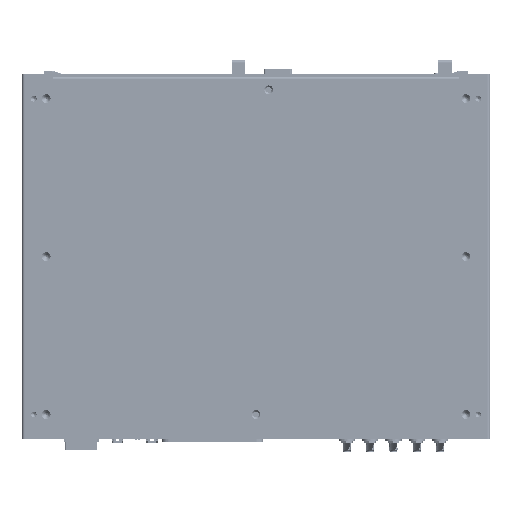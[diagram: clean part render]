
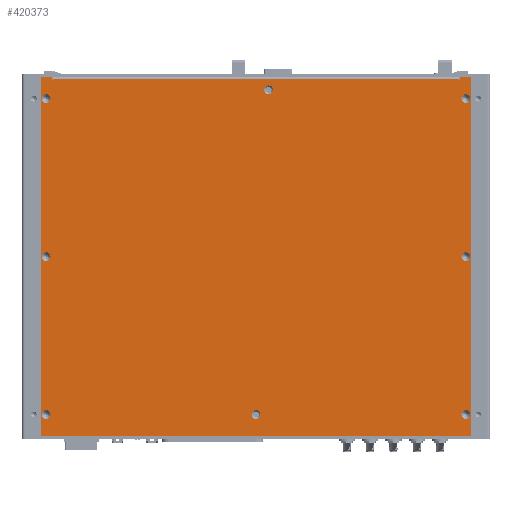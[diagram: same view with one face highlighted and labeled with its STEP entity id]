
A CAD part, front view. The second image highlights one B-rep face of the part: STEP entity #420373.
In plain terms, the highlighted planar face has unit normal (0, -1, 0).
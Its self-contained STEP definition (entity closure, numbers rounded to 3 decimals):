
#3962=PLANE('',#444444);
#17279=FACE_BOUND('',#45113,.T.);
#17280=FACE_BOUND('',#45114,.T.);
#17281=FACE_BOUND('',#45115,.T.);
#17282=FACE_BOUND('',#45116,.T.);
#17283=FACE_BOUND('',#45117,.T.);
#17284=FACE_BOUND('',#45118,.T.);
#17285=FACE_BOUND('',#45119,.T.);
#17286=FACE_BOUND('',#45120,.T.);
#22444=FACE_OUTER_BOUND('',#45112,.T.);
#45112=EDGE_LOOP('',(#284339,#284340,#284341,#284342,#284343,#284344,#284345,
#284346,#284347,#284348,#284349,#284350));
#45113=EDGE_LOOP('',(#284351));
#45114=EDGE_LOOP('',(#284352));
#45115=EDGE_LOOP('',(#284353));
#45116=EDGE_LOOP('',(#284354));
#45117=EDGE_LOOP('',(#284355));
#45118=EDGE_LOOP('',(#284356));
#45119=EDGE_LOOP('',(#284357));
#45120=EDGE_LOOP('',(#284358));
#71021=CIRCLE('',#444431,0.25);
#71023=CIRCLE('',#444435,0.25);
#71027=CIRCLE('',#444445,3.);
#71028=CIRCLE('',#444446,3.);
#71029=CIRCLE('',#444447,3.);
#71030=CIRCLE('',#444448,3.);
#71031=CIRCLE('',#444449,3.);
#71032=CIRCLE('',#444450,3.);
#71033=CIRCLE('',#444451,3.);
#71034=CIRCLE('',#444452,3.);
#86677=LINE('',#605684,#131161);
#86680=LINE('',#605694,#131164);
#86684=LINE('',#605701,#131168);
#86689=LINE('',#605709,#131173);
#86690=LINE('',#605712,#131174);
#86694=LINE('',#605722,#131178);
#86697=LINE('',#605732,#131181);
#86698=LINE('',#605734,#131182);
#86699=LINE('',#605736,#131183);
#86700=LINE('',#605738,#131184);
#131161=VECTOR('',#488475,1000.);
#131164=VECTOR('',#488488,1000.);
#131168=VECTOR('',#488494,1000.);
#131173=VECTOR('',#488501,1000.);
#131174=VECTOR('',#488504,1000.);
#131178=VECTOR('',#488516,1000.);
#131181=VECTOR('',#488527,1000.);
#131182=VECTOR('',#488530,1000.);
#131183=VECTOR('',#488533,1000.);
#131184=VECTOR('',#488536,1000.);
#175504=VERTEX_POINT('',#605682);
#175505=VERTEX_POINT('',#605683);
#175506=VERTEX_POINT('',#605692);
#175507=VERTEX_POINT('',#605693);
#175508=VERTEX_POINT('',#605699);
#175509=VERTEX_POINT('',#605700);
#175510=VERTEX_POINT('',#605705);
#175511=VERTEX_POINT('',#605707);
#175512=VERTEX_POINT('',#605711);
#175513=VERTEX_POINT('',#605715);
#175515=VERTEX_POINT('',#605724);
#175516=VERTEX_POINT('',#605725);
#175520=VERTEX_POINT('',#605746);
#175521=VERTEX_POINT('',#605748);
#175522=VERTEX_POINT('',#605750);
#175523=VERTEX_POINT('',#605752);
#175524=VERTEX_POINT('',#605754);
#175525=VERTEX_POINT('',#605756);
#175526=VERTEX_POINT('',#605758);
#175527=VERTEX_POINT('',#605760);
#217073=EDGE_CURVE('',#175504,#175505,#86677,.T.);
#217078=EDGE_CURVE('',#175506,#175507,#86680,.T.);
#217082=EDGE_CURVE('',#175508,#175509,#86684,.T.);
#217087=EDGE_CURVE('',#175511,#175510,#86689,.T.);
#217088=EDGE_CURVE('',#175512,#175510,#86690,.T.);
#217090=EDGE_CURVE('',#175513,#175512,#71021,.T.);
#217094=EDGE_CURVE('',#175505,#175513,#86694,.T.);
#217095=EDGE_CURVE('',#175515,#175516,#71023,.T.);
#217099=EDGE_CURVE('',#175516,#175508,#86697,.T.);
#217100=EDGE_CURVE('',#175509,#175506,#86698,.T.);
#217101=EDGE_CURVE('',#175507,#175511,#86699,.T.);
#217102=EDGE_CURVE('',#175504,#175515,#86700,.T.);
#217106=EDGE_CURVE('',#175520,#175520,#71027,.T.);
#217107=EDGE_CURVE('',#175521,#175521,#71028,.T.);
#217108=EDGE_CURVE('',#175522,#175522,#71029,.T.);
#217109=EDGE_CURVE('',#175523,#175523,#71030,.T.);
#217110=EDGE_CURVE('',#175524,#175524,#71031,.T.);
#217111=EDGE_CURVE('',#175525,#175525,#71032,.T.);
#217112=EDGE_CURVE('',#175526,#175526,#71033,.T.);
#217113=EDGE_CURVE('',#175527,#175527,#71034,.T.);
#284339=ORIENTED_EDGE('',*,*,#217073,.T.);
#284340=ORIENTED_EDGE('',*,*,#217094,.T.);
#284341=ORIENTED_EDGE('',*,*,#217090,.T.);
#284342=ORIENTED_EDGE('',*,*,#217088,.T.);
#284343=ORIENTED_EDGE('',*,*,#217087,.F.);
#284344=ORIENTED_EDGE('',*,*,#217101,.F.);
#284345=ORIENTED_EDGE('',*,*,#217078,.F.);
#284346=ORIENTED_EDGE('',*,*,#217100,.F.);
#284347=ORIENTED_EDGE('',*,*,#217082,.F.);
#284348=ORIENTED_EDGE('',*,*,#217099,.F.);
#284349=ORIENTED_EDGE('',*,*,#217095,.F.);
#284350=ORIENTED_EDGE('',*,*,#217102,.F.);
#284351=ORIENTED_EDGE('',*,*,#217106,.F.);
#284352=ORIENTED_EDGE('',*,*,#217107,.F.);
#284353=ORIENTED_EDGE('',*,*,#217108,.F.);
#284354=ORIENTED_EDGE('',*,*,#217109,.F.);
#284355=ORIENTED_EDGE('',*,*,#217110,.F.);
#284356=ORIENTED_EDGE('',*,*,#217111,.F.);
#284357=ORIENTED_EDGE('',*,*,#217112,.F.);
#284358=ORIENTED_EDGE('',*,*,#217113,.F.);
#420373=ADVANCED_FACE('',(#22444,#17279,#17280,#17281,#17282,#17283,#17284,
#17285,#17286),#3962,.F.);
#444431=AXIS2_PLACEMENT_3D('',#605716,#488508,#488509);
#444435=AXIS2_PLACEMENT_3D('',#605726,#488519,#488520);
#444444=AXIS2_PLACEMENT_3D('',#605745,#488544,#488545);
#444445=AXIS2_PLACEMENT_3D('',#605747,#488546,#488547);
#444446=AXIS2_PLACEMENT_3D('',#605749,#488548,#488549);
#444447=AXIS2_PLACEMENT_3D('',#605751,#488550,#488551);
#444448=AXIS2_PLACEMENT_3D('',#605753,#488552,#488553);
#444449=AXIS2_PLACEMENT_3D('',#605755,#488554,#488555);
#444450=AXIS2_PLACEMENT_3D('',#605757,#488556,#488557);
#444451=AXIS2_PLACEMENT_3D('',#605759,#488558,#488559);
#444452=AXIS2_PLACEMENT_3D('',#605761,#488560,#488561);
#488475=DIRECTION('',(-1.,0.,0.));
#488488=DIRECTION('',(-1.,0.,0.));
#488494=DIRECTION('',(1.,0.,0.));
#488501=DIRECTION('',(1.,0.,0.));
#488504=DIRECTION('',(0.,0.,1.));
#488508=DIRECTION('center_axis',(0.,1.,0.));
#488509=DIRECTION('ref_axis',(1.,0.,0.));
#488516=DIRECTION('',(0.,0.,-1.));
#488519=DIRECTION('center_axis',(0.,-1.,0.));
#488520=DIRECTION('ref_axis',(-1.,0.,0.));
#488527=DIRECTION('',(0.,0.,1.));
#488530=DIRECTION('',(0.,0.,-1.));
#488533=DIRECTION('',(0.,0.,1.));
#488536=DIRECTION('',(0.,0.,-1.));
#488544=DIRECTION('center_axis',(0.,1.,0.));
#488545=DIRECTION('ref_axis',(1.,0.,0.));
#488546=DIRECTION('center_axis',(0.,-1.,0.));
#488547=DIRECTION('ref_axis',(-1.,0.,0.));
#488548=DIRECTION('center_axis',(0.,-1.,0.));
#488549=DIRECTION('ref_axis',(-1.,0.,0.));
#488550=DIRECTION('center_axis',(0.,-1.,0.));
#488551=DIRECTION('ref_axis',(-1.,0.,0.));
#488552=DIRECTION('center_axis',(0.,-1.,0.));
#488553=DIRECTION('ref_axis',(-1.,0.,0.));
#488554=DIRECTION('center_axis',(0.,-1.,0.));
#488555=DIRECTION('ref_axis',(-1.,0.,0.));
#488556=DIRECTION('center_axis',(0.,-1.,0.));
#488557=DIRECTION('ref_axis',(-1.,0.,0.));
#488558=DIRECTION('center_axis',(0.,-1.,0.));
#488559=DIRECTION('ref_axis',(-1.,0.,0.));
#488560=DIRECTION('center_axis',(0.,-1.,0.));
#488561=DIRECTION('ref_axis',(-1.,0.,0.));
#605682=CARTESIAN_POINT('',(138.95,-43.8,121.3));
#605683=CARTESIAN_POINT('',(-138.95,-43.8,121.3));
#605684=CARTESIAN_POINT('',(138.95,-43.8,121.3));
#605692=CARTESIAN_POINT('',(146.85,-43.8,-122.9));
#605693=CARTESIAN_POINT('',(-146.85,-43.8,-122.9));
#605694=CARTESIAN_POINT('',(146.85,-43.8,-122.9));
#605699=CARTESIAN_POINT('',(139.45,-43.8,122.9));
#605700=CARTESIAN_POINT('',(146.85,-43.8,122.9));
#605701=CARTESIAN_POINT('',(146.85,-43.8,122.9));
#605705=CARTESIAN_POINT('',(-139.45,-43.8,122.9));
#605707=CARTESIAN_POINT('',(-146.85,-43.8,122.9));
#605709=CARTESIAN_POINT('',(146.85,-43.8,122.9));
#605711=CARTESIAN_POINT('',(-139.45,-43.8,120.8));
#605712=CARTESIAN_POINT('',(-139.45,-43.8,123.));
#605715=CARTESIAN_POINT('',(-138.95,-43.8,120.8));
#605716=CARTESIAN_POINT('Origin',(-139.2,-43.8,120.8));
#605722=CARTESIAN_POINT('',(-138.95,-43.8,123.));
#605724=CARTESIAN_POINT('',(138.95,-43.8,120.8));
#605725=CARTESIAN_POINT('',(139.45,-43.8,120.8));
#605726=CARTESIAN_POINT('Origin',(139.2,-43.8,120.8));
#605732=CARTESIAN_POINT('',(139.45,-43.8,123.));
#605734=CARTESIAN_POINT('',(146.85,-43.8,-123.));
#605736=CARTESIAN_POINT('',(-146.85,-43.8,-123.));
#605738=CARTESIAN_POINT('',(138.95,-43.8,123.));
#605745=CARTESIAN_POINT('Origin',(0.,-43.8,0.));
#605746=CARTESIAN_POINT('',(146.45,-43.8,-108.));
#605747=CARTESIAN_POINT('Origin',(143.45,-43.8,-108.));
#605748=CARTESIAN_POINT('',(3.,-43.8,-108.));
#605749=CARTESIAN_POINT('Origin',(0.,-43.8,-108.));
#605750=CARTESIAN_POINT('',(-140.45,-43.8,-108.));
#605751=CARTESIAN_POINT('Origin',(-143.45,-43.8,-108.));
#605752=CARTESIAN_POINT('',(-140.45,-43.8,0.));
#605753=CARTESIAN_POINT('Origin',(-143.45,-43.8,0.));
#605754=CARTESIAN_POINT('',(11.655,-43.8,114.));
#605755=CARTESIAN_POINT('Origin',(8.655,-43.8,114.));
#605756=CARTESIAN_POINT('',(146.45,-43.8,108.));
#605757=CARTESIAN_POINT('Origin',(143.45,-43.8,108.));
#605758=CARTESIAN_POINT('',(146.45,-43.8,0.));
#605759=CARTESIAN_POINT('Origin',(143.45,-43.8,0.));
#605760=CARTESIAN_POINT('',(-140.45,-43.8,108.));
#605761=CARTESIAN_POINT('Origin',(-143.45,-43.8,108.));
